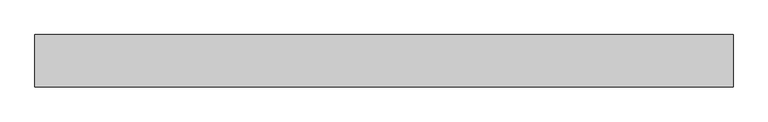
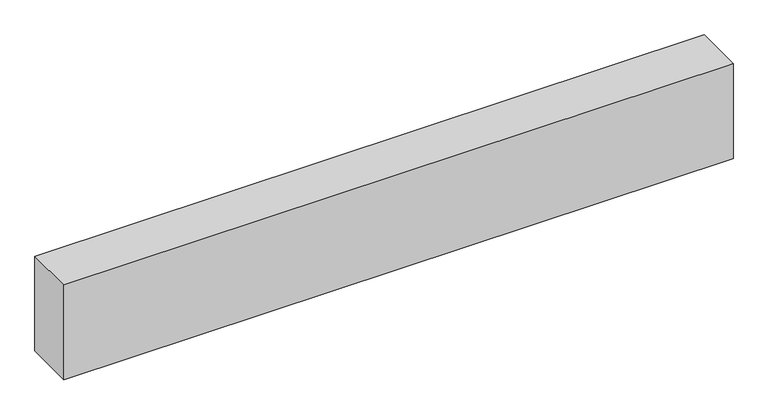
"""IFC4 building model written with IfcOpenShell, lengths in millimetres: beam geometry, NS R30 120x240x1600 : NS R30 120x240x1600."""

import ifcopenshell
import ifcopenshell.guid

model = None  # the IFC model being written
_history = None  # IfcOwnerHistory: only IFC2X3 demands one
_inside = {}  # id of a spatial element -> (the spatial element, [elements in it])
_under = {}  # id of a project, library or spatial element -> (it, [spatial elements below it])
_declared = {}  # id of a project -> (the project, [libraries it declares])
_typed = {}  # id of a type object -> (the type object, [elements of that type])
_made_of = {}  # id of a material, layer set ... -> (it, [elements and type objects made of it])


def new_model(schema):
    """Start an empty IFC model of exactly this schema.

    Asked for "IFC4X3", IfcOpenShell would pick the latest addendum, in which some entities
    have other attributes; the version numbers below select the first issue.
    IFC2X3 requires an IfcOwnerHistory on every rooted entity: one is made here for all.
    """
    global model, _history
    if schema == "IFC4X3":
        model = ifcopenshell.file(schema_version=(4, 3, 0, 0))
    else:
        model = ifcopenshell.file(schema=schema)
    _inside.clear()
    _under.clear()
    _declared.clear()
    _typed.clear()
    _made_of.clear()
    _history = None
    if model.schema == "IFC2X3":
        org = make("IfcOrganization", Name="unknown")
        user = make(
            "IfcPersonAndOrganization",
            ThePerson=make("IfcPerson", FamilyName="unknown"),
            TheOrganization=org,
        )
        app = make(
            "IfcApplication",
            ApplicationDeveloper=org,
            Version="unknown",
            ApplicationFullName="unknown",
            ApplicationIdentifier="unknown",
        )
        _history = make(
            "IfcOwnerHistory",
            OwningUser=user,
            OwningApplication=app,
            ChangeAction="ADDED",
            CreationDate=0,
        )
    return model


def make(cls, **values):
    """One entity of the class cls with the attributes given. An attribute that is None is left unset."""
    return model.create_entity(
        cls, **{name: value for name, value in values.items() if value is not None}
    )


def rooted(cls, **values):
    """An entity with a GlobalId (a new one), such as an element, a storey or a relation."""
    return make(cls, GlobalId=ifcopenshell.guid.new(), OwnerHistory=_history, **values)


def si_unit(unit_type, name, prefix=None):
    """IfcSIUnit, for example si_unit("LENGTHUNIT", "METRE", prefix="MILLI")."""
    return make("IfcSIUnit", UnitType=unit_type, Prefix=prefix, Name=name)


def assignment(units):
    """IfcUnitAssignment: the units of a project."""
    return None if units is None else make("IfcUnitAssignment", Units=units)


def point(xyz):
    """IfcCartesianPoint."""
    return None if xyz is None else make("IfcCartesianPoint", Coordinates=xyz)


def direction(xyz):
    """IfcDirection."""
    return None if xyz is None else make("IfcDirection", DirectionRatios=xyz)


def frame(location, z_axis=None, x_axis=None):
    """IfcAxis2Placement3D, a coordinate frame: its origin and axes. An axis left out is left unset."""
    return make(
        "IfcAxis2Placement3D",
        Location=point(location),
        Axis=direction(z_axis),
        RefDirection=direction(x_axis),
    )


def origin():
    """The frame at (0, 0, 0) with its axes left unset."""
    return frame((0.0, 0.0, 0.0))


def origin_with_axes():
    """The frame at (0, 0, 0) with the z axis (0, 0, 1) and the x axis (1, 0, 0) written out."""
    return frame((0.0, 0.0, 0.0), z_axis=(0.0, 0.0, 1.0), x_axis=(1.0, 0.0, 0.0))


def place(relative_to, where):
    """IfcLocalPlacement: puts the frame where relative to a parent placement (None: the world)."""
    return make(
        "IfcLocalPlacement", PlacementRelTo=relative_to, RelativePlacement=where
    )


def context(
    kind, dimensions, precision=None, world=None, true_north=None, identifier=None
):
    """IfcGeometricRepresentationContext, for example the 3D "Model" context."""
    return make(
        "IfcGeometricRepresentationContext",
        ContextIdentifier=identifier,
        ContextType=kind,
        CoordinateSpaceDimension=dimensions,
        Precision=precision,
        WorldCoordinateSystem=world,
        TrueNorth=true_north,
    )


def project(units=None, contexts=None):
    """IfcProject with its units and contexts."""
    return rooted(
        "IfcProject",
        Name="project",
        RepresentationContexts=contexts,
        UnitsInContext=assignment(units),
    )


def spatial(cls, under=None, at=None, **own):
    """A site, building, storey or space (cls), placed at a placement, below another one or the project."""
    s = rooted(cls, ObjectPlacement=at, **own)
    if under is not None:
        _under.setdefault(under.id(), (under, []))[1].append(s)
    return s


def polyline(points):
    """IfcPolyline through the points."""
    return make("IfcPolyline", Points=[point(p) for p in points])


def outline(outer, holes=None, kind="AREA"):
    """IfcArbitraryClosedProfileDef: a profile drawn as a closed curve; with holes, ...WithVoids."""
    if holes is None:
        return make("IfcArbitraryClosedProfileDef", ProfileType=kind, OuterCurve=outer)
    return make(
        "IfcArbitraryProfileDefWithVoids",
        ProfileType=kind,
        OuterCurve=outer,
        InnerCurves=holes,
    )


def extrude(swept, where, along, depth):
    """IfcExtrudedAreaSolid: the profile swept, set in the frame where, extruded along a direction by depth."""
    return make(
        "IfcExtrudedAreaSolid",
        SweptArea=swept,
        Position=where,
        ExtrudedDirection=direction(along),
        Depth=depth,
    )


def shape(context_of_items, identifier, shape_type, items):
    """IfcShapeRepresentation: the items that make up one representation, for example the "Body"."""
    return make(
        "IfcShapeRepresentation",
        ContextOfItems=context_of_items,
        RepresentationIdentifier=identifier,
        RepresentationType=shape_type,
        Items=items,
    )


def source(mapping_origin, context_of_items, identifier, shape_type, items):
    """IfcRepresentationMap: a shape defined once, which mapped items show again and again."""
    return make(
        "IfcRepresentationMap",
        MappingOrigin=mapping_origin,
        MappedRepresentation=shape(context_of_items, identifier, shape_type, items),
    )


def transform(
    local_origin,
    x_axis=None,
    y_axis=None,
    z_axis=None,
    scale=None,
    scale2=None,
    scale3=None,
    uniform=True,
):
    """IfcCartesianTransformationOperator3D, or its non-uniform kind. x_axis, y_axis, z_axis: its Axis1, 2, 3."""
    if uniform:
        return make(
            "IfcCartesianTransformationOperator3D",
            Axis1=direction(x_axis),
            Axis2=direction(y_axis),
            LocalOrigin=point(local_origin),
            Scale=scale,
            Axis3=direction(z_axis),
        )
    return make(
        "IfcCartesianTransformationOperator3DnonUniform",
        Axis1=direction(x_axis),
        Axis2=direction(y_axis),
        LocalOrigin=point(local_origin),
        Scale=scale,
        Axis3=direction(z_axis),
        Scale2=scale2,
        Scale3=scale3,
    )


def mapped(mapping_source, mapping_target):
    """IfcMappedItem: shows the shape of a source again, moved by a transform."""
    return make(
        "IfcMappedItem", MappingSource=mapping_source, MappingTarget=mapping_target
    )


def made_of(thing, what):
    """Note that an element or type object is made of a material, layer set ...; save() writes the relation."""
    if what is not None:
        _made_of.setdefault(what.id(), (what, []))[1].append(thing)
    return thing


def element(
    cls,
    number,
    at=None,
    inside=None,
    cuts=None,
    type_object=None,
    material=None,
    context=None,
    identifier="Body",
    shape_type=None,
    held_by="IfcProductDefinitionShape",
    body=None,
    shapes=None,
    **own,
):
    """One element of the class cls, such as IfcWall. Its Tag is "e" and its number.

    at: its placement. inside: the storey or other place that contains it. cuts: it is an
    opening in that element (IfcRelVoidsElement). A single representation is given by context,
    identifier, shape_type and body (its items); several are given by shapes. held_by: the class
    of the entity that holds the representations. save() writes the other relations.
    """
    e = rooted(cls, Tag="e%d" % number, ObjectPlacement=at, **own)
    if body is not None:
        shapes = [shape(context, identifier, shape_type, body)]
    if shapes is not None:
        e.Representation = make(held_by, Representations=shapes)
    if inside is not None:
        _inside.setdefault(inside.id(), (inside, []))[1].append(e)
    if cuts is not None:
        rooted(
            "IfcRelVoidsElement", RelatingBuildingElement=cuts, RelatedOpeningElement=e
        )
    if type_object is not None:
        _typed.setdefault(type_object.id(), (type_object, []))[1].append(e)
    return made_of(e, material)


def aggregate(whole, parts):
    """IfcRelAggregates: a whole, such as a stair, and the parts it consists of."""
    return rooted("IfcRelAggregates", RelatingObject=whole, RelatedObjects=parts)


def save(model, path):
    """Write the relations noted so far, then the file.

    IfcRelAggregates (storeys below a building ...), IfcRelContainedInSpatialStructure (elements
    in a storey), IfcRelDefinesByType, IfcRelAssociatesMaterial and IfcRelDeclares: one each for
    every whole, place, type object, material and project.
    """
    for whole, parts in _under.values():
        aggregate(whole, parts)
    for where, things in _inside.values():
        rooted(
            "IfcRelContainedInSpatialStructure",
            RelatedElements=things,
            RelatingStructure=where,
        )
    for kind, things in _typed.values():
        rooted("IfcRelDefinesByType", RelatedObjects=things, RelatingType=kind)
    for what, things in _made_of.values():
        rooted("IfcRelAssociatesMaterial", RelatedObjects=things, RelatingMaterial=what)
    for by, libraries in _declared.values():
        rooted("IfcRelDeclares", RelatingContext=by, RelatedDefinitions=libraries)
    model.write(path)


def beam_7d97c161(model_context):
    return source(origin(), model_context, "Body", "SweptSolid", [
        extrude(outline(polyline([(-800.0, -60.0), (-800.0, 60.0), (800.0, 60.0), (800.0, -60.0), (-800.0, -60.0)])), origin_with_axes(), (0.0, 0.0, 1.0), 240.0),
    ])


if __name__ == "__main__":
    model = new_model("IFC4")
    model_context = context("Model", 3, world=origin())
    ifc_project = project(units=[si_unit("LENGTHUNIT", "METRE", prefix="MILLI")], contexts=[model_context])
    site = spatial("IfcSite", under=ifc_project)
    building = spatial("IfcBuilding", under=site)
    placement = place(None, origin())
    beam_shape = beam_7d97c161(model_context)
    element("IfcBeam", 1, ObjectType="NS R30 120x240x1600 : NS R30 120x240x1600", at=placement, inside=building, context=model_context, shape_type="MappedRepresentation", body=[
        mapped(beam_shape, transform((0.0, 0.0, 0.0), x_axis=(1.0, 0.0, 0.0), y_axis=(0.0, 1.0, 0.0), z_axis=(0.0, 0.0, 1.0))),
    ])
    save(model, "model.ifc")
